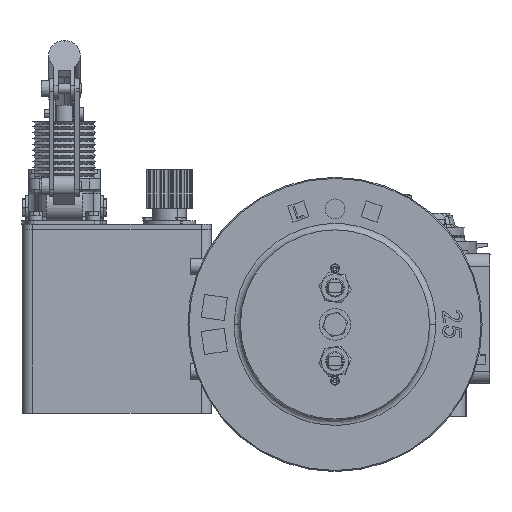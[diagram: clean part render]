
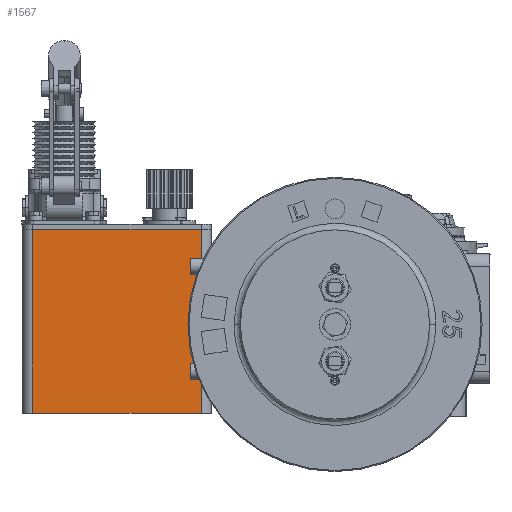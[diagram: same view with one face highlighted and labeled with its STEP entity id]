
A CAD part, left-side view. The second image highlights one B-rep face of the part: STEP entity #1567.
In plain terms, the highlighted planar face has unit normal (-1, 0, 0).
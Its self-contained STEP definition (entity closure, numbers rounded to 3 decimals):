
#895 = FACE_OUTER_BOUND ( 'NONE', #40687, .T. ) ;
#1340 = EDGE_CURVE ( 'NONE', #44319, #81013, #65231, .T. ) ;
#1567 = ADVANCED_FACE ( 'NONE', ( #895 ), #15403, .F. ) ;
#15403 = PLANE ( 'NONE',  #33193 ) ;
#20527 = VERTEX_POINT ( 'NONE', #80016 ) ;
#22285 = CARTESIAN_POINT ( 'NONE',  ( -90., 150., 148. ) ) ;
#22494 = ORIENTED_EDGE ( 'NONE', *, *, #1340, .T. ) ;
#24187 = DIRECTION ( 'NONE',  ( 0., 1., 0. ) ) ;
#28166 = CARTESIAN_POINT ( 'NONE',  ( -90., 310., 60.5 ) ) ;
#29684 = DIRECTION ( 'NONE',  ( 0., 0., -1. ) ) ;
#31299 = EDGE_CURVE ( 'NONE', #81013, #54571, #100647, .T. ) ;
#32739 = VECTOR ( 'NONE', #71716, 1000. ) ;
#32808 = LINE ( 'NONE', #38535, #32739 ) ;
#33193 = AXIS2_PLACEMENT_3D ( 'NONE', #33491, #63089, #24187 ) ;
#33491 = CARTESIAN_POINT ( 'NONE',  ( -90., 150., -27. ) ) ;
#38535 = CARTESIAN_POINT ( 'NONE',  ( -90., 150., 60.5 ) ) ;
#40687 = EDGE_LOOP ( 'NONE', ( #80396, #22494, #55753, #52193 ) ) ;
#40929 = VECTOR ( 'NONE', #67810, 1000. ) ;
#44319 = VERTEX_POINT ( 'NONE', #22285 ) ;
#48986 = DIRECTION ( 'NONE',  ( 0., 1., 0. ) ) ;
#50727 = CARTESIAN_POINT ( 'NONE',  ( -90., 230., 148. ) ) ;
#52193 = ORIENTED_EDGE ( 'NONE', *, *, #72115, .F. ) ;
#54571 = VERTEX_POINT ( 'NONE', #96818 ) ;
#55724 = CARTESIAN_POINT ( 'NONE',  ( -90., 230., -27. ) ) ;
#55753 = ORIENTED_EDGE ( 'NONE', *, *, #31299, .T. ) ;
#60727 = VECTOR ( 'NONE', #48986, 1000. ) ;
#63089 = DIRECTION ( 'NONE',  ( 1., 0., 0. ) ) ;
#65231 = LINE ( 'NONE', #50727, #40929 ) ;
#67810 = DIRECTION ( 'NONE',  ( 0., 1., 0. ) ) ;
#71716 = DIRECTION ( 'NONE',  ( 0., 0., -1. ) ) ;
#71969 = CARTESIAN_POINT ( 'NONE',  ( -90., 310., 148. ) ) ;
#72115 = EDGE_CURVE ( 'NONE', #20527, #54571, #81632, .T. ) ;
#80016 = CARTESIAN_POINT ( 'NONE',  ( -90., 150., -27. ) ) ;
#80396 = ORIENTED_EDGE ( 'NONE', *, *, #88357, .F. ) ;
#81013 = VERTEX_POINT ( 'NONE', #71969 ) ;
#81632 = LINE ( 'NONE', #55724, #60727 ) ;
#88357 = EDGE_CURVE ( 'NONE', #44319, #20527, #32808, .T. ) ;
#96818 = CARTESIAN_POINT ( 'NONE',  ( -90., 310., -27. ) ) ;
#100647 = LINE ( 'NONE', #28166, #101833 ) ;
#101833 = VECTOR ( 'NONE', #29684, 1000. ) ;
